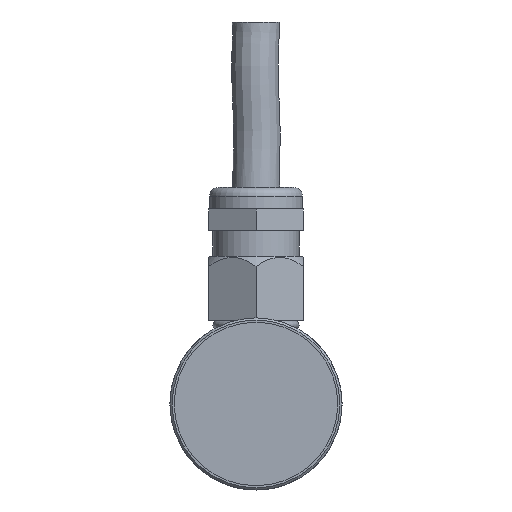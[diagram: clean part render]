
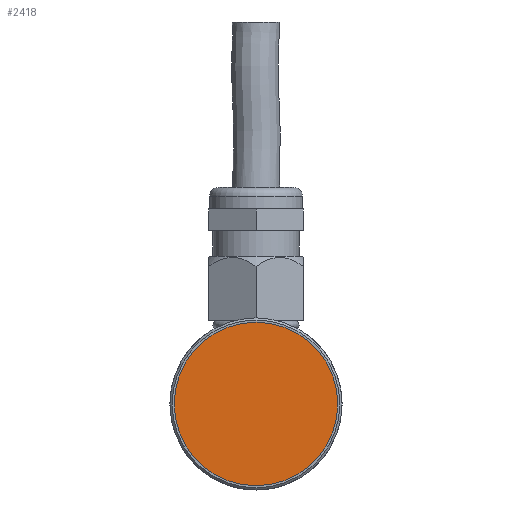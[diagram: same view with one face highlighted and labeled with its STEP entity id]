
A CAD part, left-side view. The second image highlights one B-rep face of the part: STEP entity #2418.
In plain terms, the highlighted planar face has unit normal (-1, 0, 0).
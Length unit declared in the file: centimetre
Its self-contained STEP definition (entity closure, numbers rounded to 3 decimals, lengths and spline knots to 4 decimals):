
#750=CIRCLE('',#2555,0.95);
#822=VERTEX_POINT('',#3168);
#1258=EDGE_CURVE('',#822,#822,#750,.T.);
#1558=ORIENTED_EDGE('',*,*,#1258,.T.);
#2107=EDGE_LOOP('',(#1558));
#2264=FACE_BOUND('',#2107,.T.);
#2418=ADVANCED_FACE('',(#2264),#8311,.T.);
#2555=AXIS2_PLACEMENT_3D('',#3167,#2748,#2749);
#2557=AXIS2_PLACEMENT_3D('',#3171,#2752,$);
#2748=DIRECTION('',(-1.,0.,0.));
#2749=DIRECTION('',(0.,0.,0.95));
#2752=DIRECTION('',(-1.,0.,0.));
#3167=CARTESIAN_POINT('',(0.1,0.,0.));
#3168=CARTESIAN_POINT('',(0.1,0.,0.95));
#3171=CARTESIAN_POINT('',(0.1,0.,0.));
#8311=PLANE('',#2557);
